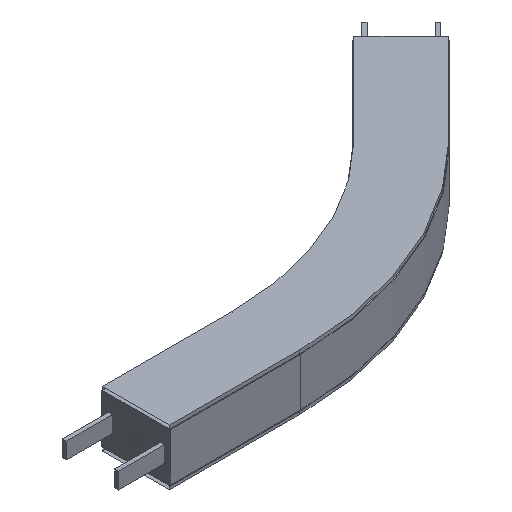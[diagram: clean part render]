
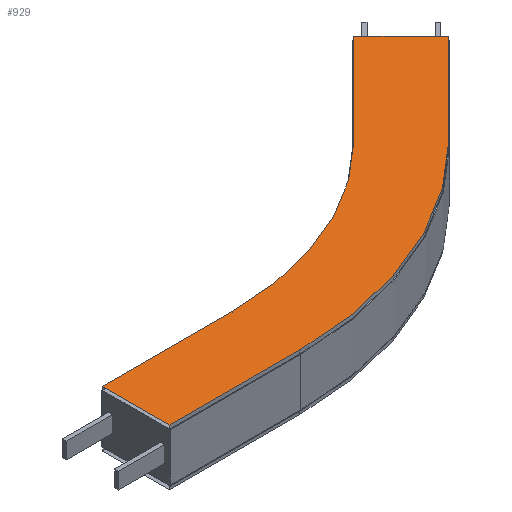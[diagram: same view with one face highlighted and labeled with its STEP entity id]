
A CAD part, isometric view. The second image highlights one B-rep face of the part: STEP entity #929.
In plain terms, the highlighted planar face has unit normal (0, 0, -1).
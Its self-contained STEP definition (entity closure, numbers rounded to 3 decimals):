
#61=CIRCLE('',#1011,448.5);
#62=CIRCLE('',#1013,551.5);
#119=FACE_OUTER_BOUND('',#171,.T.);
#171=EDGE_LOOP('',(#794,#795,#796,#797,#798,#799,#800,#801));
#253=LINE('',#1463,#363);
#255=LINE('',#1469,#365);
#262=LINE('',#1490,#372);
#267=LINE('',#1499,#377);
#268=LINE('',#1501,#378);
#269=LINE('',#1502,#379);
#363=VECTOR('',#1198,10.);
#365=VECTOR('',#1202,10.);
#372=VECTOR('',#1223,10.);
#377=VECTOR('',#1232,10.);
#378=VECTOR('',#1235,10.);
#379=VECTOR('',#1236,10.);
#453=VERTEX_POINT('',#1457);
#455=VERTEX_POINT('',#1461);
#456=VERTEX_POINT('',#1465);
#458=VERTEX_POINT('',#1468);
#461=VERTEX_POINT('',#1475);
#462=VERTEX_POINT('',#1480);
#464=VERTEX_POINT('',#1486);
#467=VERTEX_POINT('',#1497);
#565=EDGE_CURVE('',#453,#455,#253,.T.);
#567=EDGE_CURVE('',#456,#458,#255,.T.);
#572=EDGE_CURVE('',#461,#453,#61,.T.);
#574=EDGE_CURVE('',#462,#456,#62,.T.);
#578=EDGE_CURVE('',#464,#461,#262,.T.);
#583=EDGE_CURVE('',#467,#462,#267,.T.);
#584=EDGE_CURVE('',#467,#464,#268,.T.);
#585=EDGE_CURVE('',#455,#458,#269,.T.);
#794=ORIENTED_EDGE('',*,*,#584,.T.);
#795=ORIENTED_EDGE('',*,*,#578,.T.);
#796=ORIENTED_EDGE('',*,*,#572,.T.);
#797=ORIENTED_EDGE('',*,*,#565,.T.);
#798=ORIENTED_EDGE('',*,*,#585,.T.);
#799=ORIENTED_EDGE('',*,*,#567,.F.);
#800=ORIENTED_EDGE('',*,*,#574,.F.);
#801=ORIENTED_EDGE('',*,*,#583,.F.);
#879=PLANE('',#1018);
#929=ADVANCED_FACE('',(#119),#879,.F.);
#1011=AXIS2_PLACEMENT_3D('',#1478,#1210,#1211);
#1013=AXIS2_PLACEMENT_3D('',#1483,#1215,#1216);
#1018=AXIS2_PLACEMENT_3D('',#1500,#1233,#1234);
#1198=DIRECTION('',(0.707,0.707,0.));
#1202=DIRECTION('',(0.707,0.707,0.));
#1210=DIRECTION('center_axis',(0.,0.,
1.));
#1211=DIRECTION('ref_axis',(0.,-1.,0.));
#1215=DIRECTION('center_axis',(0.,0.,
1.));
#1216=DIRECTION('ref_axis',(0.,-1.,0.));
#1223=DIRECTION('',(1.,0.,0.));
#1232=DIRECTION('',(1.,0.,0.));
#1233=DIRECTION('center_axis',(0.,0.,1.));
#1234=DIRECTION('ref_axis',(0.,-1.,0.));
#1235=DIRECTION('',(0.,1.,0.));
#1236=DIRECTION('',(0.707,-0.707,0.));
#1457=CARTESIAN_POINT('',(517.137,182.863,43.));
#1461=CARTESIAN_POINT('',(658.559,324.284,43.));
#1463=CARTESIAN_POINT('',(517.137,182.863,43.));
#1465=CARTESIAN_POINT('',(589.969,110.031,43.));
#1468=CARTESIAN_POINT('',(731.391,251.452,43.));
#1469=CARTESIAN_POINT('',(589.969,110.031,43.));
#1475=CARTESIAN_POINT('',(200.,51.5,43.));
#1478=CARTESIAN_POINT('Origin',(200.,500.,43.));
#1480=CARTESIAN_POINT('',(200.,-51.5,43.));
#1483=CARTESIAN_POINT('Origin',(200.,500.,43.));
#1486=CARTESIAN_POINT('',(0.,51.5,43.));
#1490=CARTESIAN_POINT('',(0.,51.5,43.));
#1497=CARTESIAN_POINT('',(0.,-51.5,43.));
#1499=CARTESIAN_POINT('',(0.,-51.5,43.));
#1500=CARTESIAN_POINT('Origin',(0.,51.5,43.));
#1501=CARTESIAN_POINT('',(0.,-51.5,43.));
#1502=CARTESIAN_POINT('',(731.391,251.452,43.));
